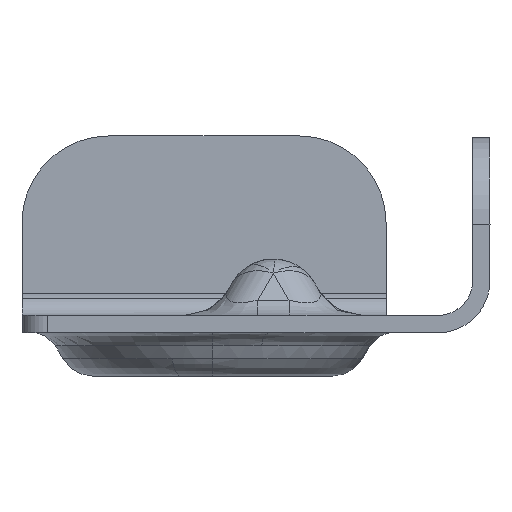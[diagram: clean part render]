
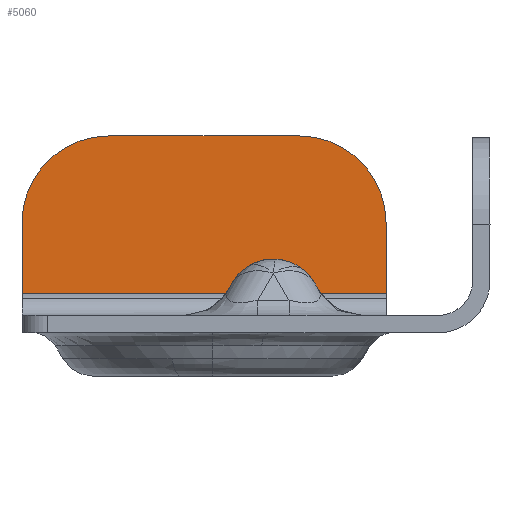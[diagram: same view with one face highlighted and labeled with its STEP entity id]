
A CAD part, left-side view. The second image highlights one B-rep face of the part: STEP entity #5060.
In plain terms, the highlighted planar face has unit normal (-1, 0, 0).
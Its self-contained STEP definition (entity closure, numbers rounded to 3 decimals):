
#5018=AXIS2_PLACEMENT_3D('Circle Axis2P3D',#5016,#5017,$) ;
#5038=AXIS2_PLACEMENT_3D('Plane Axis2P3D',#5035,#5036,#5037) ;
#5042=AXIS2_PLACEMENT_3D('Circle Axis2P3D',#5040,#5041,$) ;
#3806=CARTESIAN_POINT('Vertex',(1555.499,536.001,29.501)) ;
#3809=CARTESIAN_POINT('Line Origine',(1555.499,536.001,33.601)) ;
#3813=CARTESIAN_POINT('Vertex',(1555.499,536.001,37.701)) ;
#4929=CARTESIAN_POINT('Vertex',(1555.499,494.001,29.501)) ;
#4932=CARTESIAN_POINT('Line Origine',(1555.499,512.001,29.501)) ;
#4954=CARTESIAN_POINT('Vertex',(1555.499,494.001,37.701)) ;
#4959=CARTESIAN_POINT('Line Origine',(1555.499,494.001,33.601)) ;
#5016=CARTESIAN_POINT('Axis2P3D Location',(1555.499,526.001,37.701)) ;
#5020=CARTESIAN_POINT('Vertex',(1555.499,526.001,47.701)) ;
#5035=CARTESIAN_POINT('Axis2P3D Location',(1555.499,494.001,25.001)) ;
#5040=CARTESIAN_POINT('Axis2P3D Location',(1555.499,504.001,37.701)) ;
#5044=CARTESIAN_POINT('Vertex',(1555.499,504.001,47.701)) ;
#5047=CARTESIAN_POINT('Line Origine',(1555.499,515.001,47.701)) ;
#3810=DIRECTION('Vector Direction',(0.,0.,-1.)) ;
#4933=DIRECTION('Vector Direction',(0.,-1.,0.)) ;
#4960=DIRECTION('Vector Direction',(0.,0.,1.)) ;
#5017=DIRECTION('Axis2P3D Direction',(1.,0.,0.)) ;
#5036=DIRECTION('Axis2P3D Direction',(1.,0.,0.)) ;
#5037=DIRECTION('Axis2P3D XDirection',(0.,1.,0.)) ;
#5041=DIRECTION('Axis2P3D Direction',(1.,0.,0.)) ;
#5048=DIRECTION('Vector Direction',(0.,1.,0.)) ;
#3811=VECTOR('Line Direction',#3810,1.) ;
#4934=VECTOR('Line Direction',#4933,1.) ;
#4961=VECTOR('Line Direction',#4960,1.) ;
#5049=VECTOR('Line Direction',#5048,1.) ;
#5053=ORIENTED_EDGE('',*,*,#5022,.F.) ;
#5054=ORIENTED_EDGE('',*,*,#3815,.T.) ;
#5055=ORIENTED_EDGE('',*,*,#4936,.T.) ;
#5056=ORIENTED_EDGE('',*,*,#4963,.T.) ;
#5057=ORIENTED_EDGE('',*,*,#5046,.F.) ;
#5058=ORIENTED_EDGE('',*,*,#5051,.T.) ;
#5060=ADVANCED_FACE('interfacebia.1\\20mm--\X2\526F9A7E624B52A86807914D\X0\.1',(#5059),#5039,.F.) ;
#5019=CIRCLE('generated circle',#5018,10.) ;
#5043=CIRCLE('generated circle',#5042,10.) ;
#3815=EDGE_CURVE('',#3814,#3807,#3812,.T.) ;
#4936=EDGE_CURVE('',#3807,#4930,#4935,.T.) ;
#4963=EDGE_CURVE('',#4930,#4955,#4962,.T.) ;
#5022=EDGE_CURVE('',#3814,#5021,#5019,.T.) ;
#5046=EDGE_CURVE('',#5045,#4955,#5043,.T.) ;
#5051=EDGE_CURVE('',#5045,#5021,#5050,.T.) ;
#5052=EDGE_LOOP('',(#5053,#5054,#5055,#5056,#5057,#5058)) ;
#5059=FACE_OUTER_BOUND('',#5052,.T.) ;
#3812=LINE('Line',#3809,#3811) ;
#4935=LINE('Line',#4932,#4934) ;
#4962=LINE('Line',#4959,#4961) ;
#5050=LINE('Line',#5047,#5049) ;
#5039=PLANE('Plane',#5038) ;
#3807=VERTEX_POINT('',#3806) ;
#3814=VERTEX_POINT('',#3813) ;
#4930=VERTEX_POINT('',#4929) ;
#4955=VERTEX_POINT('',#4954) ;
#5021=VERTEX_POINT('',#5020) ;
#5045=VERTEX_POINT('',#5044) ;
